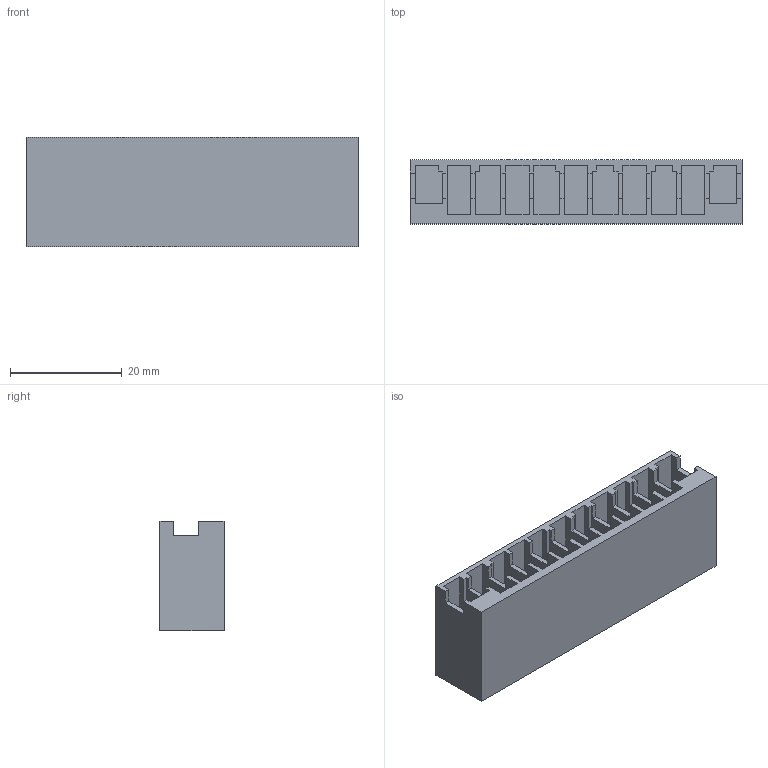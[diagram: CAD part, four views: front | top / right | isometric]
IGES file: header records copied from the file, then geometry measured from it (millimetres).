
Start section:  PTC IGES file: j4-cnp1-2.igs
Global section: file name: j4-cnp1-2.igs; native system: Creo Parametric by Parametric Technology Corporation; preprocessor: 2014310; author: ZZ86203; organization: Unknown; date: 20151022.125235; units: millimetre
Bounding box: 59.5 x 11.47 x 19.58 mm (x, y, z)
Volume: 6796.1 mm3; surface area: 8420.6 mm2
Topology: 1 solids, 1 shells, 114 faces, 336 edges, 224 vertices
Faces by surface type: bspline 114
